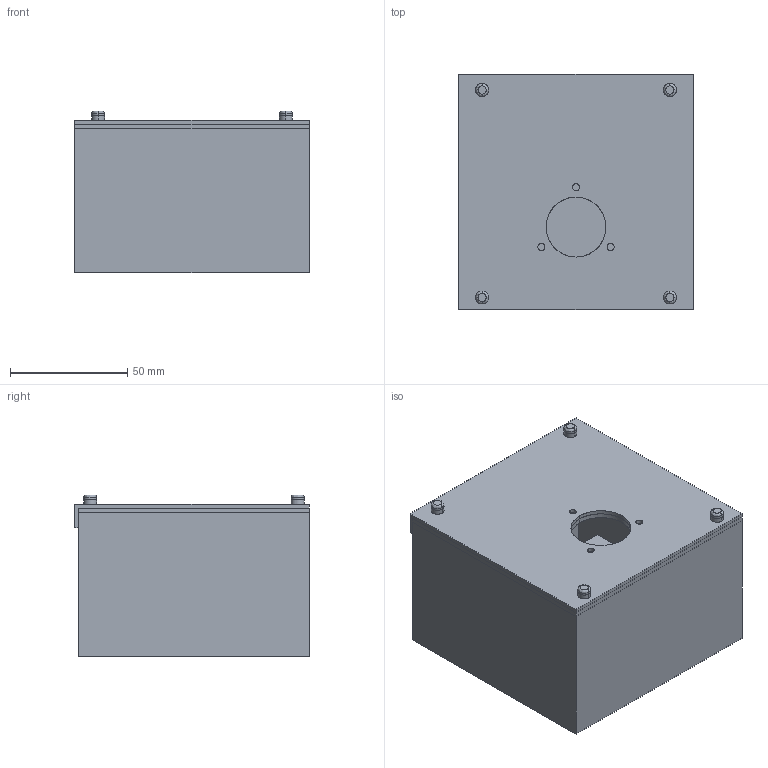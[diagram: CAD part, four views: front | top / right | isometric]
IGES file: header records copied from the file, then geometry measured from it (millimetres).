
Global section: file name: E:\UnigraphicsGraphicData\MISUMI_PRESS-PARTS\IGES\3d_jbx100_04236_r00.igs; native system: NX V5.0; preprocessor: UGS NX IGES V5.0; author: MISUMI; date: 20110105.161102; units: millimetre
Bounding box: 100 x 100 x 69 mm (x, y, z)
Surface area: 122466 mm2 (no closed solid volume)
Topology: 0 solids, 0 shells, 141 faces, 1106 edges, 1106 vertices
Faces by surface type: bspline 141
